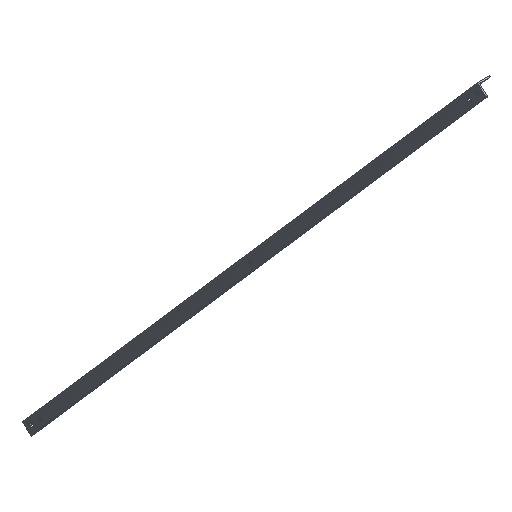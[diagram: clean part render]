
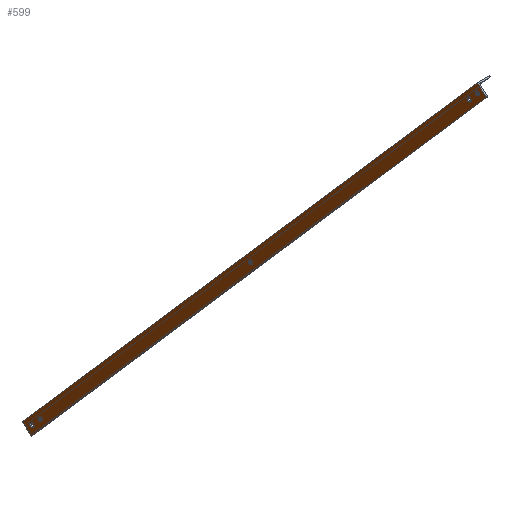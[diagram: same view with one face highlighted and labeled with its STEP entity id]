
A CAD part, isometric view. The second image highlights one B-rep face of the part: STEP entity #599.
In plain terms, the highlighted planar face has unit normal (-1, 0, 0).
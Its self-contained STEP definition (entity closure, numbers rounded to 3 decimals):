
#26 = CIRCLE ( 'NONE', #232, 7. ) ;
#28 = EDGE_CURVE ( 'NONE', #402, #497, #592, .T. ) ;
#32 = DIRECTION ( 'NONE',  ( -1., 0., 0. ) ) ;
#36 = AXIS2_PLACEMENT_3D ( 'NONE', #40, #263, #493 ) ;
#39 = CARTESIAN_POINT ( 'NONE',  ( 5., 1881.595, 135.574 ) ) ;
#40 = CARTESIAN_POINT ( 'NONE',  ( 5., 118.405, 2154.426 ) ) ;
#44 = ORIENTED_EDGE ( 'NONE', *, *, #462, .F. ) ;
#45 = DIRECTION ( 'NONE',  ( 0., 0.753, 0.658 ) ) ;
#46 = EDGE_CURVE ( 'NONE', #562, #75, #156, .T. ) ;
#50 = AXIS2_PLACEMENT_3D ( 'NONE', #210, #218, #453 ) ;
#51 = EDGE_CURVE ( 'NONE', #130, #697, #121, .T. ) ;
#57 = DIRECTION ( 'NONE',  ( -1., 0., 0. ) ) ;
#65 = CARTESIAN_POINT ( 'NONE',  ( 5., 118.405, 2154.426 ) ) ;
#66 = ORIENTED_EDGE ( 'NONE', *, *, #685, .F. ) ;
#68 = VERTEX_POINT ( 'NONE', #722 ) ;
#75 = VERTEX_POINT ( 'NONE', #437 ) ;
#78 = ORIENTED_EDGE ( 'NONE', *, *, #200, .F. ) ;
#110 = EDGE_CURVE ( 'NONE', #584, #75, #161, .T. ) ;
#115 = CARTESIAN_POINT ( 'NONE',  ( 5., 1920.159, 129.423 ) ) ;
#117 = CARTESIAN_POINT ( 'NONE',  ( 5., 111.405, 2154.426 ) ) ;
#118 = CARTESIAN_POINT ( 'NONE',  ( 5., 1855.705, 173.233 ) ) ;
#121 = CIRCLE ( 'NONE', #36, 7. ) ;
#125 = EDGE_CURVE ( 'NONE', #658, #68, #608, .T. ) ;
#130 = VERTEX_POINT ( 'NONE', #117 ) ;
#134 = ORIENTED_EDGE ( 'NONE', *, *, #125, .F. ) ;
#137 = ORIENTED_EDGE ( 'NONE', *, *, #28, .F. ) ;
#139 = CARTESIAN_POINT ( 'NONE',  ( 5., 92.515, 2192.086 ) ) ;
#140 = VERTEX_POINT ( 'NONE', #690 ) ;
#153 = DIRECTION ( 'NONE',  ( -1., 0., 0. ) ) ;
#156 = LINE ( 'NONE', #542, #432 ) ;
#157 = FACE_BOUND ( 'NONE', #186, .T. ) ;
#161 = LINE ( 'NONE', #115, #176 ) ;
#165 = AXIS2_PLACEMENT_3D ( 'NONE', #507, #57, #680 ) ;
#176 = VECTOR ( 'NONE', #392, 1000. ) ;
#186 = EDGE_LOOP ( 'NONE', ( #230, #134 ) ) ;
#193 = CARTESIAN_POINT ( 'NONE',  ( 5., 1881.595, 135.574 ) ) ;
#196 = EDGE_CURVE ( 'NONE', #140, #584, #509, .T. ) ;
#200 = EDGE_CURVE ( 'NONE', #621, #223, #26, .T. ) ;
#204 = VECTOR ( 'NONE', #526, 1000. ) ;
#210 = CARTESIAN_POINT ( 'NONE',  ( 5., 85.515, 2192.086 ) ) ;
#212 = CARTESIAN_POINT ( 'NONE',  ( 5., 46.951, 2198.236 ) ) ;
#217 = FACE_BOUND ( 'NONE', #289, .T. ) ;
#218 = DIRECTION ( 'NONE',  ( -1., 0., 0. ) ) ;
#223 = VERTEX_POINT ( 'NONE', #277 ) ;
#226 = EDGE_CURVE ( 'NONE', #497, #402, #575, .T. ) ;
#230 = ORIENTED_EDGE ( 'NONE', *, *, #398, .F. ) ;
#232 = AXIS2_PLACEMENT_3D ( 'NONE', #738, #687, #268 ) ;
#233 = CARTESIAN_POINT ( 'NONE',  ( 5., 1882.499, 96.533 ) ) ;
#238 = DIRECTION ( 'NONE',  ( 0., 1., 0. ) ) ;
#247 = DIRECTION ( 'NONE',  ( 0., -1., 0. ) ) ;
#251 = CARTESIAN_POINT ( 'NONE',  ( 5., 1848.705, 173.233 ) ) ;
#258 = AXIS2_PLACEMENT_3D ( 'NONE', #313, #32, #607 ) ;
#261 = CIRCLE ( 'NONE', #596, 7. ) ;
#263 = DIRECTION ( 'NONE',  ( -1., 0., 0. ) ) ;
#264 = AXIS2_PLACEMENT_3D ( 'NONE', #623, #683, #564 ) ;
#268 = DIRECTION ( 'NONE',  ( 0., -1., 0. ) ) ;
#276 = CARTESIAN_POINT ( 'NONE',  ( 5., 1920.159, 129.423 ) ) ;
#277 = CARTESIAN_POINT ( 'NONE',  ( 5., 993., 1145. ) ) ;
#286 = EDGE_LOOP ( 'NONE', ( #137, #550 ) ) ;
#288 = EDGE_LOOP ( 'NONE', ( #394, #66 ) ) ;
#289 = EDGE_LOOP ( 'NONE', ( #639, #78 ) ) ;
#313 = CARTESIAN_POINT ( 'NONE',  ( 5., 85.515, 2192.086 ) ) ;
#319 = CIRCLE ( 'NONE', #466, 7. ) ;
#320 = CARTESIAN_POINT ( 'NONE',  ( 5., 1000., 1145. ) ) ;
#326 = FACE_BOUND ( 'NONE', #288, .T. ) ;
#333 = CARTESIAN_POINT ( 'NONE',  ( 5., 1888.595, 135.574 ) ) ;
#343 = CIRCLE ( 'NONE', #448, 7. ) ;
#355 = ORIENTED_EDGE ( 'NONE', *, *, #46, .T. ) ;
#358 = DIRECTION ( 'NONE',  ( -1., 0., 0. ) ) ;
#365 = DIRECTION ( 'NONE',  ( 0., -1., 0. ) ) ;
#375 = DIRECTION ( 'NONE',  ( -1., 0., 0. ) ) ;
#379 = DIRECTION ( 'NONE',  ( 0., 0.753, 0.658 ) ) ;
#380 = FACE_BOUND ( 'NONE', #425, .T. ) ;
#391 = FACE_OUTER_BOUND ( 'NONE', #481, .T. ) ;
#392 = DIRECTION ( 'NONE',  ( 0., -0.658, 0.753 ) ) ;
#394 = ORIENTED_EDGE ( 'NONE', *, *, #51, .F. ) ;
#395 = EDGE_CURVE ( 'NONE', #656, #404, #261, .T. ) ;
#398 = EDGE_CURVE ( 'NONE', #68, #658, #319, .T. ) ;
#401 = CARTESIAN_POINT ( 'NONE',  ( 5., 125.405, 2154.426 ) ) ;
#402 = VERTEX_POINT ( 'NONE', #549 ) ;
#404 = VERTEX_POINT ( 'NONE', #555 ) ;
#425 = EDGE_LOOP ( 'NONE', ( #44, #720 ) ) ;
#432 = VECTOR ( 'NONE', #379, 1000. ) ;
#437 = CARTESIAN_POINT ( 'NONE',  ( 5., 84.61, 2231.126 ) ) ;
#443 = CIRCLE ( 'NONE', #545, 7. ) ;
#448 = AXIS2_PLACEMENT_3D ( 'NONE', #65, #358, #238 ) ;
#453 = DIRECTION ( 'NONE',  ( 0., 1., 0. ) ) ;
#458 = ORIENTED_EDGE ( 'NONE', *, *, #708, .T. ) ;
#462 = EDGE_CURVE ( 'NONE', #404, #656, #443, .T. ) ;
#466 = AXIS2_PLACEMENT_3D ( 'NONE', #251, #375, #365 ) ;
#481 = EDGE_LOOP ( 'NONE', ( #355, #662, #692, #458 ) ) ;
#493 = DIRECTION ( 'NONE',  ( 0., 1., 0. ) ) ;
#497 = VERTEX_POINT ( 'NONE', #139 ) ;
#504 = DIRECTION ( 'NONE',  ( 0., -1., 0. ) ) ;
#507 = CARTESIAN_POINT ( 'NONE',  ( 5., 1848.705, 173.233 ) ) ;
#509 = LINE ( 'NONE', #560, #628 ) ;
#512 = PLANE ( 'NONE',  #264 ) ;
#518 = CIRCLE ( 'NONE', #519, 7. ) ;
#519 = AXIS2_PLACEMENT_3D ( 'NONE', #320, #620, #504 ) ;
#526 = DIRECTION ( 'NONE',  ( 0., -0.658, 0.753 ) ) ;
#542 = CARTESIAN_POINT ( 'NONE',  ( 5., 84.61, 2231.126 ) ) ;
#545 = AXIS2_PLACEMENT_3D ( 'NONE', #193, #614, #247 ) ;
#548 = EDGE_CURVE ( 'NONE', #223, #621, #518, .T. ) ;
#549 = CARTESIAN_POINT ( 'NONE',  ( 5., 78.515, 2192.086 ) ) ;
#550 = ORIENTED_EDGE ( 'NONE', *, *, #226, .F. ) ;
#555 = CARTESIAN_POINT ( 'NONE',  ( 5., 1874.595, 135.574 ) ) ;
#560 = CARTESIAN_POINT ( 'NONE',  ( 5., 1920.159, 129.423 ) ) ;
#562 = VERTEX_POINT ( 'NONE', #212 ) ;
#564 = DIRECTION ( 'NONE',  ( 0., 1., 0. ) ) ;
#575 = CIRCLE ( 'NONE', #50, 7. ) ;
#584 = VERTEX_POINT ( 'NONE', #276 ) ;
#592 = CIRCLE ( 'NONE', #258, 7. ) ;
#596 = AXIS2_PLACEMENT_3D ( 'NONE', #39, #153, #664 ) ;
#597 = LINE ( 'NONE', #233, #204 ) ;
#599 = ADVANCED_FACE ( 'NONE', ( #326, #742, #157, #380, #217, #391 ), #512, .F. ) ;
#607 = DIRECTION ( 'NONE',  ( 0., 1., 0. ) ) ;
#608 = CIRCLE ( 'NONE', #165, 7. ) ;
#614 = DIRECTION ( 'NONE',  ( -1., 0., 0. ) ) ;
#620 = DIRECTION ( 'NONE',  ( -1., 0., 0. ) ) ;
#621 = VERTEX_POINT ( 'NONE', #686 ) ;
#623 = CARTESIAN_POINT ( 'NONE',  ( 5., 1920.159, 129.423 ) ) ;
#628 = VECTOR ( 'NONE', #45, 1000. ) ;
#639 = ORIENTED_EDGE ( 'NONE', *, *, #548, .F. ) ;
#656 = VERTEX_POINT ( 'NONE', #333 ) ;
#658 = VERTEX_POINT ( 'NONE', #118 ) ;
#662 = ORIENTED_EDGE ( 'NONE', *, *, #110, .F. ) ;
#664 = DIRECTION ( 'NONE',  ( 0., -1., 0. ) ) ;
#680 = DIRECTION ( 'NONE',  ( 0., -1., 0. ) ) ;
#683 = DIRECTION ( 'NONE',  ( 1., 0., 0. ) ) ;
#685 = EDGE_CURVE ( 'NONE', #697, #130, #343, .T. ) ;
#686 = CARTESIAN_POINT ( 'NONE',  ( 5., 1007., 1145. ) ) ;
#687 = DIRECTION ( 'NONE',  ( -1., 0., 0. ) ) ;
#690 = CARTESIAN_POINT ( 'NONE',  ( 5., 1882.499, 96.533 ) ) ;
#692 = ORIENTED_EDGE ( 'NONE', *, *, #196, .F. ) ;
#697 = VERTEX_POINT ( 'NONE', #401 ) ;
#708 = EDGE_CURVE ( 'NONE', #140, #562, #597, .T. ) ;
#720 = ORIENTED_EDGE ( 'NONE', *, *, #395, .F. ) ;
#722 = CARTESIAN_POINT ( 'NONE',  ( 5., 1841.705, 173.233 ) ) ;
#738 = CARTESIAN_POINT ( 'NONE',  ( 5., 1000., 1145. ) ) ;
#742 = FACE_BOUND ( 'NONE', #286, .T. ) ;
